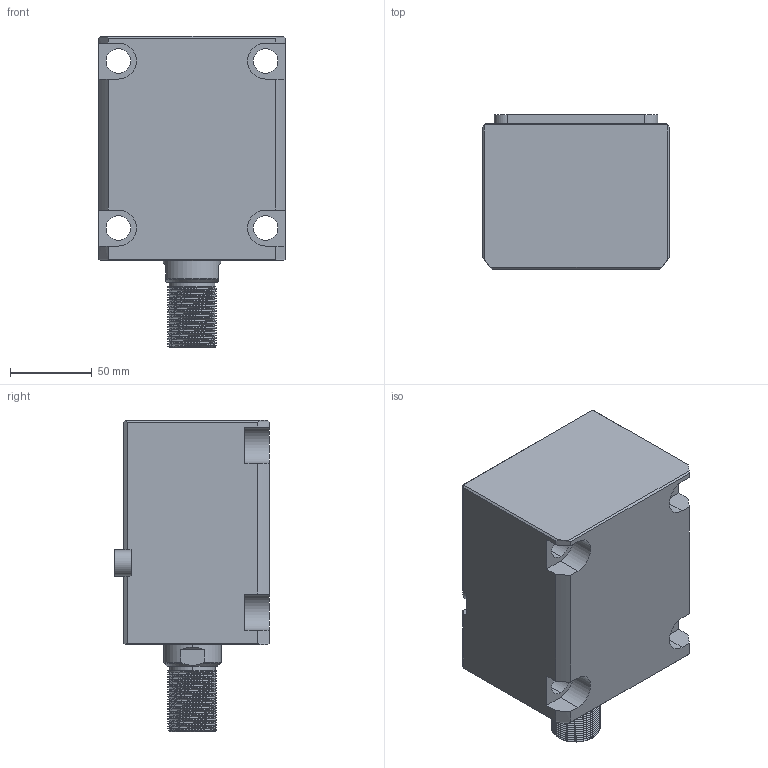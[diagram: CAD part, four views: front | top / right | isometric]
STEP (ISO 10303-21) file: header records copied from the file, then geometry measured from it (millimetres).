
FILE_DESCRIPTION (( 'STEP AP214' ), '1' );
FILE_NAME ('chtb-lam63x70w_asm.STEP', '2018-05-22T03:40:20', ( 'Windows' ), ( 'Microsoft' ), 'SwSTEP 2.0', 'SolidWorks 2015', '' );
FILE_SCHEMA (( 'AUTOMOTIVE_DESIGN' ));
Length unit declared in the file: millimetre
Products named in the file (5): CHTB-LAM63X70NBT; CHTB-LA63PJ; CHTB63X70WHSG; CHTB-63QG; chtb-lam63x70w_asm
Assembly tree (4 placements, depth 2):
  chtb-lam63x70w_asm
    CHTB-63QG
    CHTB63X70WHSG
    CHTB-LA63PJ
    CHTB-LAM63X70NBT
Bounding box: 114 x 94.5 x 190 mm (x, y, z)
Volume: 1200864.1 mm3; surface area: 170072.4 mm2
Topology: 4 solids, 4 shells, 236 faces, 696 edges, 473 vertices
Faces by surface type: cylinder 148, plane 58, bspline 15, cone 9, torus 6
Entity records: 23566 total; most frequent: CARTESIAN_POINT 17780, ORIENTED_EDGE 1384, DIRECTION 946, EDGE_CURVE 692, VERTEX_POINT 473, AXIS2_PLACEMENT_3D 344, EDGE_LOOP 259, LINE 258
